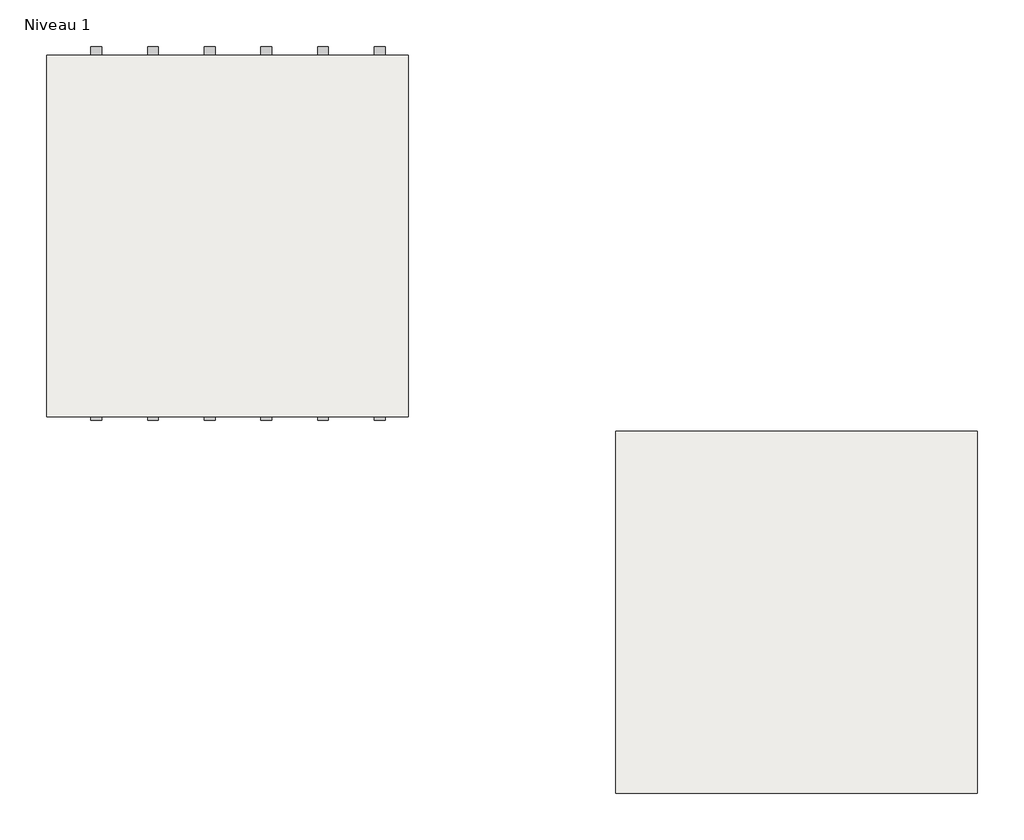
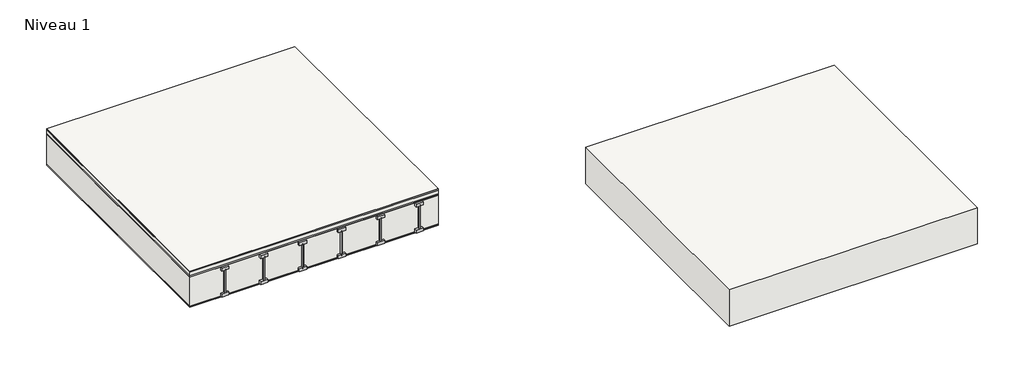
# One storey: 8 roofs, 6 beams.
"""IFC4 building model written with IfcOpenShell, lengths in millimetres."""

from ifc_helpers import new_model, si_unit, frame, origin, place, context, project, spatial, polyline, outline, extrude, transform, mapped, element, save
from components import load_type_catalog_854ba091

model = new_model("IFC4")

# Units and contexts
model_context = context("Model", 3, world=origin())
ifc_project = project(units=[si_unit("LENGTHUNIT", "METRE", prefix="MILLI")], contexts=[model_context])

# Site, building, storey
site = spatial("IfcSite", under=ifc_project)
building = spatial("IfcBuilding", under=site)
storey = spatial("IfcBuildingStorey", under=building, Name="Niveau 1", Elevation=3000.0)

# Beams
placement = place(None, origin())
load_type_catalog_shape = load_type_catalog_854ba091(model_context)
element("IfcBeam", 1, ObjectType="Poutre en I_Paille : Load Type Catalog", at=placement, inside=storey, context=model_context, shape_type="MappedRepresentation", body=[
    mapped(load_type_catalog_shape, transform((-9111.3570017, -517.5288529, 3387.0), x_axis=(0.0, -1.0, 0.0), y_axis=(1.0, 0.0, 0.0), z_axis=(0.0, 0.0, 1.0))),
])
element("IfcBeam", 2, ObjectType="Poutre en I_Paille : Load Type Catalog", at=placement, inside=storey, context=model_context, shape_type="MappedRepresentation", body=[
    mapped(load_type_catalog_shape, transform((-9581.3570017, -517.5288529, 3387.0), x_axis=(0.0, -1.0, 0.0), y_axis=(1.0, 0.0, 0.0), z_axis=(0.0, 0.0, 1.0))),
])
element("IfcBeam", 3, ObjectType="Poutre en I_Paille : Load Type Catalog", at=placement, inside=storey, context=model_context, shape_type="MappedRepresentation", body=[
    mapped(load_type_catalog_shape, transform((-10051.3570017, -517.5288529, 3387.0), x_axis=(0.0, -1.0, 0.0), y_axis=(1.0, 0.0, 0.0), z_axis=(0.0, 0.0, 1.0))),
])
element("IfcBeam", 4, ObjectType="Poutre en I_Paille : Load Type Catalog", at=placement, inside=storey, context=model_context, shape_type="MappedRepresentation", body=[
    mapped(load_type_catalog_shape, transform((-10521.3570017, -517.5288529, 3387.0), x_axis=(0.0, -1.0, 0.0), y_axis=(1.0, 0.0, 0.0), z_axis=(0.0, 0.0, 1.0))),
])
element("IfcBeam", 5, ObjectType="Poutre en I_Paille : Load Type Catalog", at=placement, inside=storey, context=model_context, shape_type="MappedRepresentation", body=[
    mapped(load_type_catalog_shape, transform((-10991.3570017, -517.5288529, 3387.0), x_axis=(0.0, -1.0, 0.0), y_axis=(1.0, 0.0, 0.0), z_axis=(0.0, 0.0, 1.0))),
])
element("IfcBeam", 6, ObjectType="Poutre en I_Paille : Load Type Catalog", at=placement, inside=storey, context=model_context, shape_type="MappedRepresentation", body=[
    mapped(load_type_catalog_shape, transform((-11461.3570017, -517.5288529, 3387.0), x_axis=(0.0, -1.0, 0.0), y_axis=(1.0, 0.0, 0.0), z_axis=(0.0, 0.0, 1.0))),
])

# Roofs
element("IfcRoof", 7, ObjectType="Paille", at=placement, inside=storey, context=model_context, shape_type="SweptSolid", body=[
    extrude(outline(polyline([(-8873.8570017, 960.7425178), (-8873.8570017, -2039.2574822), (-11873.8570017, -2039.2574822), (-11873.8570017, 960.7425178), (-8873.8570017, 960.7425178)])), frame((0.0, 0.0, 3017.0), z_axis=(0.0, 0.0, 1.0), x_axis=(1.0, 0.0, 0.0)), (0.0, 0.0, 1.0), 370.0),
])
element("IfcRoof", 8, ObjectType="Panneau rigide et perspirant", at=placement, inside=storey, context=model_context, shape_type="SweptSolid", body=[
    extrude(outline(polyline([(-8873.8570017, 960.7425178), (-8873.8570017, -2039.2574822), (-11873.8570017, -2039.2574822), (-11873.8570017, 960.7425178), (-8873.8570017, 960.7425178)])), frame((0.0, 0.0, 3387.0), z_axis=(0.0, 0.0, 1.0), x_axis=(1.0, 0.0, 0.0)), (0.0, 0.0, 1.0), 16.0),
])
element("IfcRoof", 9, ObjectType="Frein vapeur", at=placement, inside=storey, context=model_context, shape_type="SweptSolid", body=[
    extrude(outline(polyline([(-8873.8570017, 960.7425178), (-8873.8570017, -2039.2574822), (-11873.8570017, -2039.2574822), (-11873.8570017, 960.7425178), (-8873.8570017, 960.7425178)])), frame((0.0, 0.0, 3016.0), z_axis=(0.0, 0.0, 1.0), x_axis=(1.0, 0.0, 0.0)), (0.0, 0.0, 1.0), 1.0),
])
element("IfcRoof", 10, ObjectType="Membrane d'étanchéité", at=placement, inside=storey, context=model_context, shape_type="SweptSolid", body=[
    extrude(outline(polyline([(-8873.8570017, 960.7425178), (-8873.8570017, -2039.2574822), (-11873.8570017, -2039.2574822), (-11873.8570017, 960.7425178), (-8873.8570017, 960.7425178)])), frame((0.0, 0.0, 3464.0), z_axis=(0.0, 0.0, 1.0), x_axis=(1.0, 0.0, 0.0)), (0.0, 0.0, 1.0), 1.0),
])
element("IfcRoof", 11, ObjectType="Lame d'air ventilée", at=placement, inside=storey, context=model_context, shape_type="SweptSolid", body=[
    extrude(outline(polyline([(-8873.8570017, 960.7425178), (-8873.8570017, -2039.2574822), (-11873.8570017, -2039.2574822), (-11873.8570017, 960.7425178), (-8873.8570017, 960.7425178)])), frame((0.0, 0.0, 3403.0), z_axis=(0.0, 0.0, 1.0), x_axis=(1.0, 0.0, 0.0)), (0.0, 0.0, 1.0), 45.0),
])
element("IfcRoof", 12, ObjectType="Parement", at=placement, inside=storey, context=model_context, shape_type="SweptSolid", body=[
    extrude(outline(polyline([(-8873.8570017, 960.7425178), (-8873.8570017, -2039.2574822), (-11873.8570017, -2039.2574822), (-11873.8570017, 960.7425178), (-8873.8570017, 960.7425178)])), frame((0.0, 0.0, 3000.0), z_axis=(0.0, 0.0, 1.0), x_axis=(1.0, 0.0, 0.0)), (0.0, 0.0, 1.0), 16.0),
])
element("IfcRoof", 13, ObjectType="Platelage", at=placement, inside=storey, context=model_context, shape_type="SweptSolid", body=[
    extrude(outline(polyline([(-8873.8570017, 960.7425178), (-8873.8570017, -2039.2574822), (-11873.8570017, -2039.2574822), (-11873.8570017, 960.7425178), (-8873.8570017, 960.7425178)])), frame((0.0, 0.0, 3448.0), z_axis=(0.0, 0.0, 1.0), x_axis=(1.0, 0.0, 0.0)), (0.0, 0.0, 1.0), 16.0),
])
element("IfcRoof", 14, ObjectType="Toit - SBR_12", at=placement, inside=storey, context=model_context, shape_type="SweptSolid", body=[
    extrude(outline(polyline([(-4154.3364473, -5158.2247429), (-7154.3364473, -5158.2247429), (-7154.3364473, -2158.2247429), (-4154.3364473, -2158.2247429), (-4154.3364473, -5158.2247429)])), frame((0.0, 0.0, 3000.0), z_axis=(0.0, 0.0, 1.0), x_axis=(1.0, 0.0, 0.0)), (0.0, 0.0, 1.0), 465.0),
])

save(model, "model.ifc")
